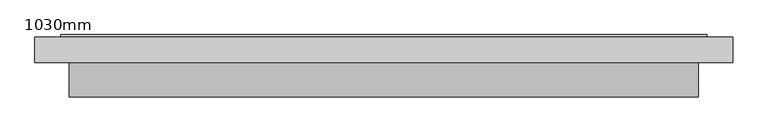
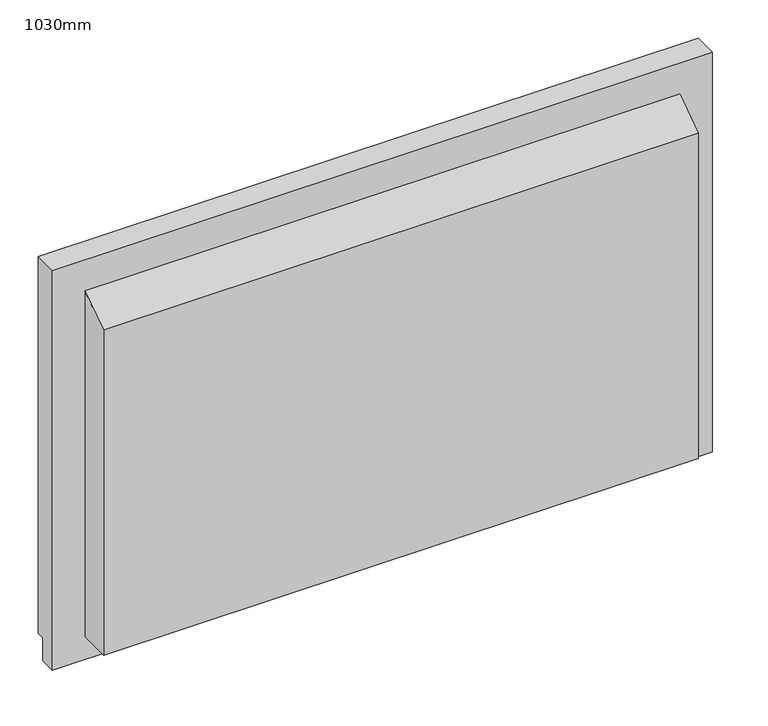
"""IFC4 building model written with IfcOpenShell, lengths in millimetres: proxy geometry, 電視 (2)-電漿 : 1030mm."""

from ifc_helpers import new_model, si_unit, frame, origin, place, context, project, spatial, polyline, outline, extrude, faceted_brep, source, transform, mapped, element, save


def proxy_1030mm_2e2320bc(model_context):
    return source(origin(), model_context, "Body", "SolidModel", [
        faceted_brep([(572.15, 50.9, 660.0), (572.15, 89.0, 660.0), (-457.85, 89.0, 660.0), (-457.85, 50.9, 660.0), (-457.85, 50.9, 0.0), (-457.85, 76.3, 0.0), (572.15, 76.3, 0.0), (572.15, 50.9, 0.0), (-457.85, 89.0, 38.1), (-457.85, 76.3, 38.1), (572.15, 89.0, 38.1), (534.05, 89.0, 621.9), (-419.75, 89.0, 621.9), (-419.75, 89.0, 76.2), (534.05, 89.0, 76.2), (572.15, 76.3, 38.1), (534.05, 74.2720413, 621.9), (534.05, 74.2720413, 76.2), (-419.75, 74.2720413, 76.2), (-419.75, 74.2720413, 621.9)], [[[0, 1, 2, 3]], [[4, 5, 6, 7]], [[3, 4, 7, 0]], [[2, 8, 9, 5, 4, 3]], [[1, 10, 8, 2], [11, 12, 13, 14]], [[0, 7, 6, 15, 10, 1]], [[16, 17, 18, 19]], [[16, 11, 14, 17]], [[17, 14, 13, 18]], [[18, 13, 12, 19]], [[19, 12, 11, 16]], [[15, 6, 5, 9]], [[9, 8, 10, 15]]]),
        faceted_brep([(518.175, 89.0, 92.075), (518.175, 89.0, 605.23125), (521.35, 92.175, 608.40625), (521.35, 92.175, 88.9), (521.35, 74.2720413, 88.9), (521.35, 74.2720413, 608.40625), (521.35, 89.0, 608.40625), (521.35, 89.0, 88.9), (534.05, 92.175, 76.2), (534.05, 92.175, 621.10625), (534.05, 74.2720413, 621.10625), (534.05, 74.2720413, 76.2), (-403.875, 89.0, 605.23125), (-407.05, 92.175, 608.40625), (-407.05, 74.2720413, 608.40625), (-407.05, 89.0, 608.40625), (-419.75, 92.175, 621.10625), (-419.75, 74.2720413, 621.10625), (-403.875, 89.0, 92.075), (-407.05, 92.175, 88.9), (-407.05, 74.2720413, 88.9), (-407.05, 89.0, 88.9), (-419.75, 92.175, 76.2), (-419.75, 74.2720413, 76.2)], [[[0, 1, 2, 3]], [[4, 5, 6, 7]], [[8, 9, 10, 11]], [[1, 12, 13, 2]], [[5, 14, 15, 6]], [[9, 16, 17, 10]], [[12, 18, 19, 13]], [[14, 20, 21, 15]], [[16, 22, 23, 17]], [[9, 8, 22, 16], [3, 2, 13, 19]], [[18, 0, 3, 19]], [[7, 6, 15, 21], [1, 0, 18, 12]], [[20, 4, 7, 21]], [[11, 10, 17, 23], [5, 4, 20, 14]], [[22, 8, 11, 23]]]),
        extrude(outline(polyline([(521.35, 89.0), (521.35, 74.2720413), (-407.05, 74.2720413), (-407.05, 89.0), (521.35, 89.0)])), frame((0.0, 0.0, 88.9), z_axis=(0.0, 0.0, 1.0), x_axis=(1.0, 0.0, 0.0)), (0.0, 0.0, 1.0), 520.3),
        extrude(outline(polyline([(0.0, 574.4688953), (50.9, 609.2), (50.9, 38.1), (0.0, 38.1), (0.0, 574.4688953)])), frame((-407.05, 0.0, 0.0), z_axis=(1.0, 0.0, 0.0), x_axis=(0.0, 1.0, 0.0)), (0.0, 0.0, 1.0), 928.4),
    ])


if __name__ == "__main__":
    model = new_model("IFC4")
    model_context = context("Model", 3, world=origin())
    ifc_project = project(units=[si_unit("LENGTHUNIT", "METRE", prefix="MILLI")], contexts=[model_context])
    site = spatial("IfcSite", under=ifc_project)
    building = spatial("IfcBuilding", under=site)
    placement = place(None, origin())
    proxy_1030mm_shape = proxy_1030mm_2e2320bc(model_context)
    element("IfcBuildingElementProxy", 1, Name="電視 (2)-電漿 : 1030mm", ObjectType="電視 (2)-電漿 : 1030mm", at=placement, inside=building, context=model_context, shape_type="MappedRepresentation", body=[
        mapped(proxy_1030mm_shape, transform((0.0, 0.0, 0.0), x_axis=(1.0, 0.0, 0.0), y_axis=(0.0, 1.0, 0.0), z_axis=(0.0, 0.0, 1.0))),
    ])
    save(model, "model.ifc")
